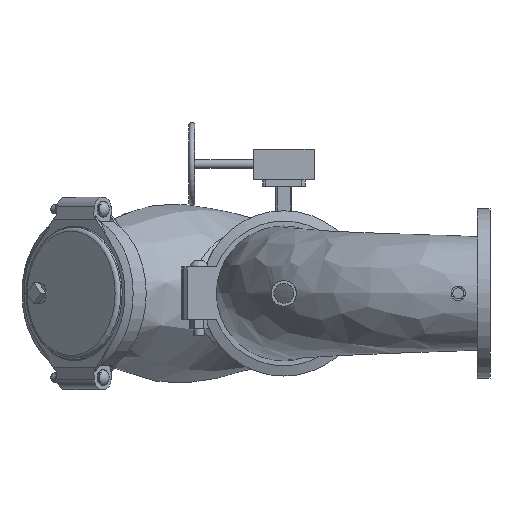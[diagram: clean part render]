
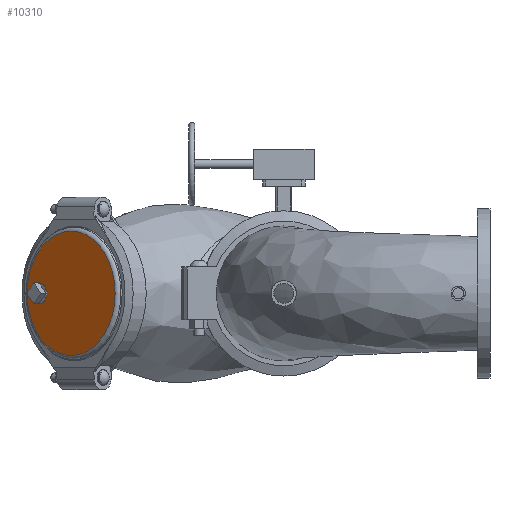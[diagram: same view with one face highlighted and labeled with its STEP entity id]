
A CAD part, front view. The second image highlights one B-rep face of the part: STEP entity #10310.
In plain terms, the highlighted planar face has unit normal (-0.707, -0.707, 0) as drawn and (1, 0, 0) by its records, which use the part's own axes.
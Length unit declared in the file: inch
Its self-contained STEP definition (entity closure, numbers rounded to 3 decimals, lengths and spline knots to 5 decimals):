
#1978=FACE_BOUND('',#2951,.T.);
#2333=FACE_OUTER_BOUND('',#2950,.T.);
#2950=EDGE_LOOP('',(#7640,#7641));
#2951=EDGE_LOOP('',(#7642));
#3564=CIRCLE('',#11412,1.);
#3572=CIRCLE('',#11423,5.8855);
#3573=CIRCLE('',#11424,5.8855);
#4357=VERTEX_POINT('',#21051);
#4365=VERTEX_POINT('',#21072);
#4366=VERTEX_POINT('',#21073);
#5541=EDGE_CURVE('',#4357,#4357,#3564,.T.);
#5550=EDGE_CURVE('',#4365,#4366,#3572,.T.);
#5551=EDGE_CURVE('',#4366,#4365,#3573,.T.);
#7640=ORIENTED_EDGE('',*,*,#5550,.T.);
#7641=ORIENTED_EDGE('',*,*,#5551,.T.);
#7642=ORIENTED_EDGE('',*,*,#5541,.T.);
#9297=PLANE('',#11426);
#10310=ADVANCED_FACE('',(#2333,#1978),#9297,.T.);
#11412=AXIS2_PLACEMENT_3D('',#21053,#13449,#13450);
#11423=AXIS2_PLACEMENT_3D('',#21074,#13472,#13473);
#11424=AXIS2_PLACEMENT_3D('',#21075,#13474,#13475);
#11426=AXIS2_PLACEMENT_3D('',#21077,#13478,#13479);
#13449=DIRECTION('center_axis',(-1.,0.,0.));
#13450=DIRECTION('ref_axis',(0.,0.,1.));
#13472=DIRECTION('center_axis',(1.,0.,0.));
#13473=DIRECTION('ref_axis',(0.,0.,-1.));
#13474=DIRECTION('center_axis',(1.,0.,0.));
#13475=DIRECTION('ref_axis',(0.,0.,-1.));
#13478=DIRECTION('center_axis',(1.,0.,0.));
#13479=DIRECTION('ref_axis',(0.,0.,-1.));
#21051=CARTESIAN_POINT('',(1.68,4.25,-1.));
#21053=CARTESIAN_POINT('Origin',(1.68,4.25,0.));
#21072=CARTESIAN_POINT('',(1.68,5.8855,0.));
#21073=CARTESIAN_POINT('',(1.68,0.,5.8855));
#21074=CARTESIAN_POINT('Origin',(1.68,0.,0.));
#21075=CARTESIAN_POINT('Origin',(1.68,0.,0.));
#21077=CARTESIAN_POINT('Origin',(1.68,0.,0.));
